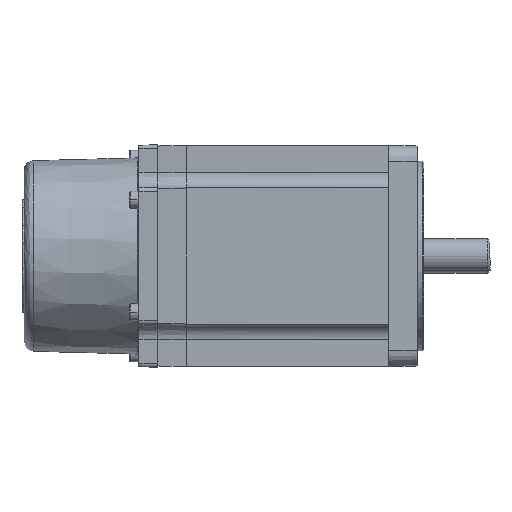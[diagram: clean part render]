
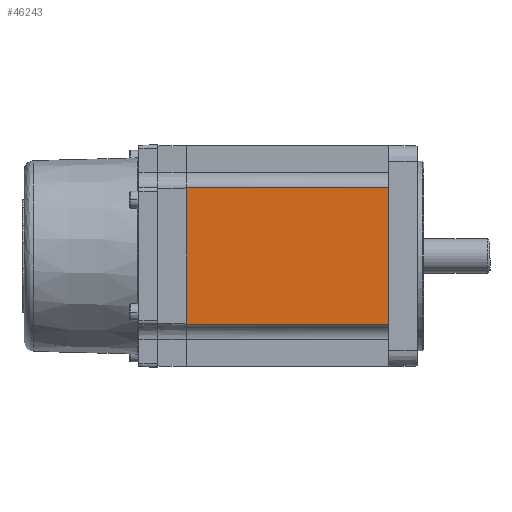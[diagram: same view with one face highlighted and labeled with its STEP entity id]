
A CAD part, front view. The second image highlights one B-rep face of the part: STEP entity #46243.
In plain terms, the highlighted planar face has unit normal (0, -1, 0) as drawn and (0, 1, 0) by its records, which use the part's own axes.
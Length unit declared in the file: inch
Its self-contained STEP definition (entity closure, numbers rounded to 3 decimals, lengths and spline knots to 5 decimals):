
#1064 = LINE ( 'NONE', #7063, #133468 ) ;
#2283 = EDGE_CURVE ( 'NONE', #24784, #46045, #27756, .T. ) ;
#7063 = CARTESIAN_POINT ( 'NONE',  ( 0.84711, 1.37795, -1.25984 ) ) ;
#19508 = VERTEX_POINT ( 'NONE', #162109 ) ;
#19554 = DIRECTION ( 'NONE',  ( 0., 0., 1. ) ) ;
#20524 = EDGE_CURVE ( 'NONE', #46045, #139086, #1064, .T. ) ;
#22702 = ORIENTED_EDGE ( 'NONE', *, *, #152291, .F. ) ;
#24784 = VERTEX_POINT ( 'NONE', #43732 ) ;
#27756 = LINE ( 'NONE', #63794, #65973 ) ;
#32293 = LINE ( 'NONE', #157945, #130567 ) ;
#41023 = CARTESIAN_POINT ( 'NONE',  ( 0.84711, 1.37795, -1.25984 ) ) ;
#43732 = CARTESIAN_POINT ( 'NONE',  ( -0.84711, 1.37795, -1.25984 ) ) ;
#46045 = VERTEX_POINT ( 'NONE', #41023 ) ;
#46243 = ADVANCED_FACE ( 'NONE', ( #133275 ), #83489, .T. ) ;
#52865 = ORIENTED_EDGE ( 'NONE', *, *, #20524, .F. ) ;
#57717 = CARTESIAN_POINT ( 'NONE',  ( -1.37795, 1.37795, 1.25984 ) ) ;
#63794 = CARTESIAN_POINT ( 'NONE',  ( -1.37795, 1.37795, -1.25984 ) ) ;
#65973 = VECTOR ( 'NONE', #76732, 39.37008 ) ;
#76732 = DIRECTION ( 'NONE',  ( 1., 0., 0. ) ) ;
#81225 = DIRECTION ( 'NONE',  ( 0., 0., -1. ) ) ;
#82707 = LINE ( 'NONE', #112757, #116719 ) ;
#83489 = PLANE ( 'NONE',  #153355 ) ;
#83868 = DIRECTION ( 'NONE',  ( 0., 0., 1. ) ) ;
#96355 = DIRECTION ( 'NONE',  ( 0., 1., 0. ) ) ;
#100405 = DIRECTION ( 'NONE',  ( 1., 0., 0. ) ) ;
#104673 = EDGE_LOOP ( 'NONE', ( #52865, #108858, #22702, #131001 ) ) ;
#108858 = ORIENTED_EDGE ( 'NONE', *, *, #2283, .F. ) ;
#112757 = CARTESIAN_POINT ( 'NONE',  ( -1.37795, 1.37795, 1.25984 ) ) ;
#116719 = VECTOR ( 'NONE', #100405, 39.37008 ) ;
#123648 = CARTESIAN_POINT ( 'NONE',  ( 0.84711, 1.37795, 1.25984 ) ) ;
#130567 = VECTOR ( 'NONE', #81225, 39.37008 ) ;
#131001 = ORIENTED_EDGE ( 'NONE', *, *, #138519, .T. ) ;
#133275 = FACE_OUTER_BOUND ( 'NONE', #104673, .T. ) ;
#133468 = VECTOR ( 'NONE', #83868, 39.37008 ) ;
#138519 = EDGE_CURVE ( 'NONE', #19508, #139086, #82707, .T. ) ;
#139086 = VERTEX_POINT ( 'NONE', #123648 ) ;
#152291 = EDGE_CURVE ( 'NONE', #19508, #24784, #32293, .T. ) ;
#153355 = AXIS2_PLACEMENT_3D ( 'NONE', #57717, #96355, #19554 ) ;
#157945 = CARTESIAN_POINT ( 'NONE',  ( -0.84711, 1.37795, 4.6063 ) ) ;
#162109 = CARTESIAN_POINT ( 'NONE',  ( -0.84711, 1.37795, 1.25984 ) ) ;
